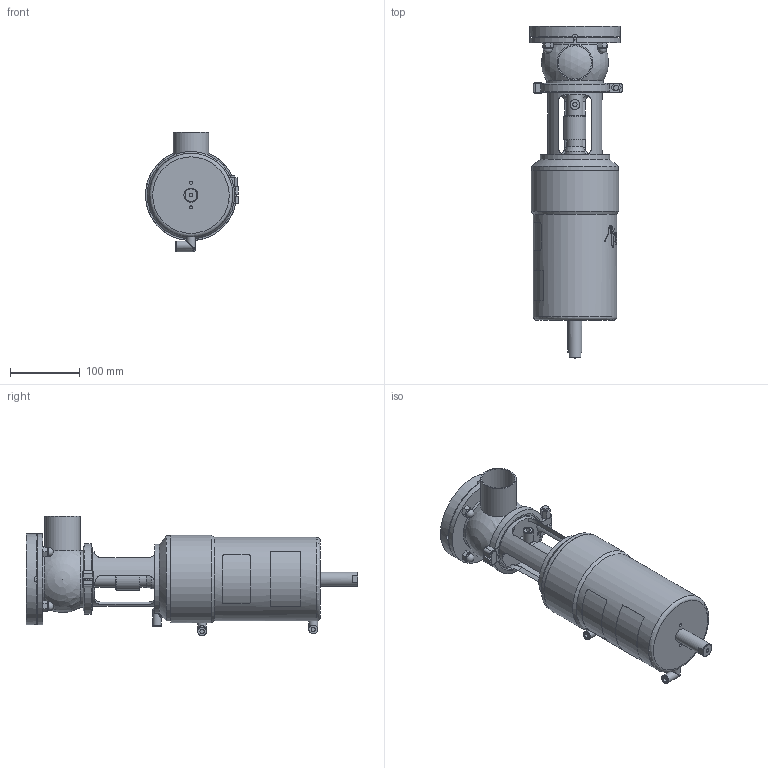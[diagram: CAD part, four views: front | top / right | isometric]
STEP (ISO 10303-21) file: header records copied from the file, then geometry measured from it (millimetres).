
FILE_DESCRIPTION (( 'STEP AP214' ), '1' );
FILE_NAME ('INNOVA T L W OD 2 WITH FLANGE_10.252.16.0005.STEP', '2024-08-21T11:29:53', ( '' ), ( '' ), 'SwSTEP 2.0', 'SolidWorks 2023', '' );
FILE_SCHEMA (( 'AUTOMOTIVE_DESIGN' ));
Length unit declared in the file: millimetre
Products named in the file (6): 10.252.15.0001_OD 2"; 10.250.15.0002_Type T T1; INNOVA T L W OD 2 WITH FLANGE_10.252.16.0005; 10.240.15.0006_OD 2"; 10.240.15.0001_DN 050; 10.248.15.0003_DIN 050 _ OD 2"
Assembly tree (5 placements, depth 2):
  INNOVA T L W OD 2 WITH FLANGE_10.252.16.0005
    10.240.15.0006_OD 2"
    10.248.15.0003_DIN 050 _ OD 2"
    10.252.15.0001_OD 2"
    10.250.15.0002_Type T T1
    10.240.15.0001_DN 050
Bounding box: 133 x 474.83 x 171 mm (x, y, z)
Volume: 3580325.2 mm3; surface area: 303750.5 mm2
Topology: 5 solids, 5 shells, 418 faces, 1098 edges, 715 vertices
Faces by surface type: plane 197, cylinder 110, bspline 83, cone 21, sphere 6, torus 1
Full cylindrical faces by diameter (mm): 4.2 x2, 5 x1, 6 x1, 6.15 x3, 8 x2, 10.5 x3, 12 x1, 12.5 x13, 14 x2, 20 x1, 23 x2, 28 x1, 31.5 x1, 47.5 x1, 50.8 x1, 78 x1, 81 x2, 93 x3, 104 x1, 119.5 x1, 125 x1, 130 x1
Entity records: 23010 total; most frequent: CARTESIAN_POINT 11857, ORIENTED_EDGE 1990, DIRECTION 1595, EDGE_CURVE 995, VERTEX_POINT 687, AXIS2_PLACEMENT_3D 596, EDGE_LOOP 528, FACE_OUTER_BOUND 467
